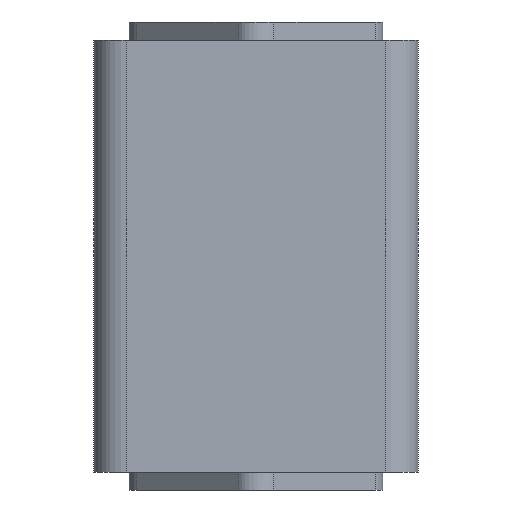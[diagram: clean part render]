
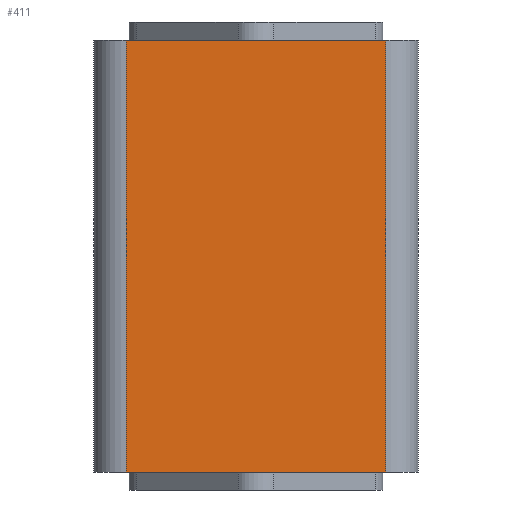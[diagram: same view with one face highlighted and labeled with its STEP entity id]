
A CAD part, front view. The second image highlights one B-rep face of the part: STEP entity #411.
In plain terms, the highlighted planar face has unit normal (0, -1, 0).
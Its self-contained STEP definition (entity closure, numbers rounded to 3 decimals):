
#346=CARTESIAN_POINT('',(18.,-22.5,60.0));
#347=VERTEX_POINT('',#346);
#355=CARTESIAN_POINT('',(18.,-22.5,0.0));
#356=VERTEX_POINT('',#355);
#357=CARTESIAN_POINT('',(18.,-22.5,0.0));
#358=DIRECTION('',(0.0,0.0,1.0));
#359=VECTOR('',#358,60.0);
#360=LINE('',#357,#359);
#361=EDGE_CURVE('',#356,#347,#360,.T.);
#381=CARTESIAN_POINT('',(18.,-22.5,0.0));
#382=DIRECTION('',(0.0,-1.0,0.0));
#383=DIRECTION('',(0.0,0.0,-1.0));
#384=AXIS2_PLACEMENT_3D('',#381,#382,#383);
#385=PLANE('',#384);
#386=CARTESIAN_POINT('',(-18.,-22.5,60.0));
#387=VERTEX_POINT('',#386);
#388=CARTESIAN_POINT('',(18.,-22.5,60.0));
#389=DIRECTION('',(-1.0,0.0,0.0));
#390=VECTOR('',#389,36.);
#391=LINE('',#388,#390);
#392=EDGE_CURVE('',#347,#387,#391,.T.);
#393=ORIENTED_EDGE('',*,*,#392,.T.);
#394=CARTESIAN_POINT('',(-18.,-22.5,0.0));
#395=VERTEX_POINT('',#394);
#396=CARTESIAN_POINT('',(-18.,-22.5,0.0));
#397=DIRECTION('',(0.0,0.0,1.0));
#398=VECTOR('',#397,60.0);
#399=LINE('',#396,#398);
#400=EDGE_CURVE('',#395,#387,#399,.T.);
#401=ORIENTED_EDGE('',*,*,#400,.F.);
#402=CARTESIAN_POINT('',(-18.,-22.5,0.0));
#403=DIRECTION('',(1.0,0.0,0.0));
#404=VECTOR('',#403,36.);
#405=LINE('',#402,#404);
#406=EDGE_CURVE('',#395,#356,#405,.T.);
#407=ORIENTED_EDGE('',*,*,#406,.T.);
#408=ORIENTED_EDGE('',*,*,#361,.T.);
#409=EDGE_LOOP('',(#393,#401,#407,#408));
#410=FACE_OUTER_BOUND('',#409,.T.);
#411=ADVANCED_FACE('',(#410),#385,.T.);
